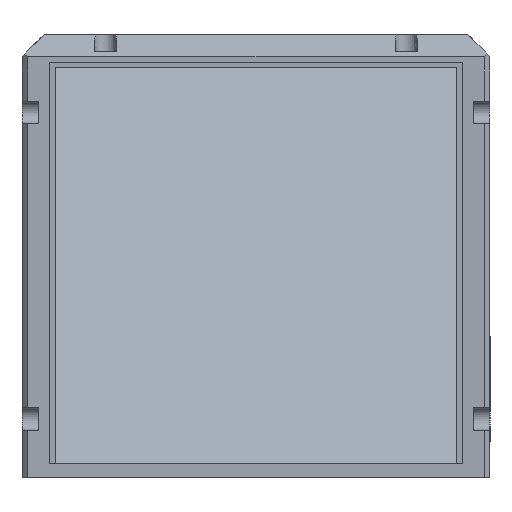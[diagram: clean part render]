
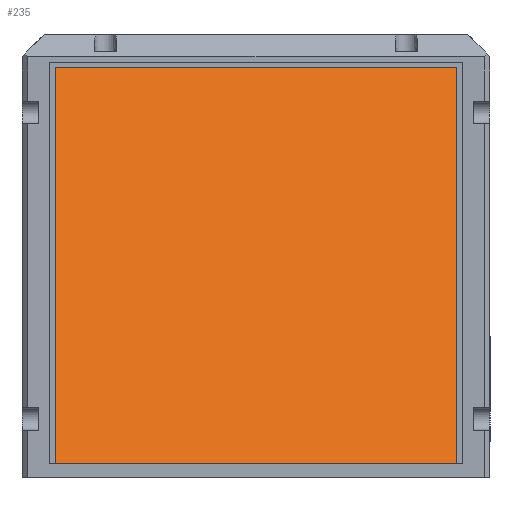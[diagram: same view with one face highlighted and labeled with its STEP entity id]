
A CAD part, front view. The second image highlights one B-rep face of the part: STEP entity #235.
In plain terms, the highlighted planar face has unit normal (0, -0.707, 0.707).
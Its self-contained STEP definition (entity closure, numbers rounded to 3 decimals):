
#83=CARTESIAN_POINT('',(37.,17.434,0.));
#84=VERTEX_POINT('',#83);
#91=CARTESIAN_POINT('',(37.,-53.701,-71.135));
#92=VERTEX_POINT('',#91);
#93=CARTESIAN_POINT('',(37.,17.434,0.));
#94=DIRECTION('',(0.,-0.707,-0.707));
#95=VECTOR('',#94,100.6);
#96=LINE('',#93,#95);
#97=EDGE_CURVE('',#84,#92,#96,.T.);
#137=CARTESIAN_POINT('',(-37.,17.434,0.));
#138=VERTEX_POINT('',#137);
#145=CARTESIAN_POINT('',(-37.,17.434,0.));
#146=DIRECTION('',(1.0,0.0,0.0));
#147=VECTOR('',#146,74.0);
#148=LINE('',#145,#147);
#149=EDGE_CURVE('',#138,#84,#148,.T.);
#168=CARTESIAN_POINT('',(-37.,-53.701,-71.135));
#169=VERTEX_POINT('',#168);
#176=CARTESIAN_POINT('',(-37.,-53.701,-71.135));
#177=DIRECTION('',(0.,0.707,0.707));
#178=VECTOR('',#177,100.6);
#179=LINE('',#176,#178);
#180=EDGE_CURVE('',#169,#138,#179,.T.);
#214=CARTESIAN_POINT('',(37.,-53.701,-71.135));
#215=DIRECTION('',(-1.0,0.0,0.0));
#216=VECTOR('',#215,74.0);
#217=LINE('',#214,#216);
#218=EDGE_CURVE('',#92,#169,#217,.T.);
#224=CARTESIAN_POINT('',(0.,-18.133,-35.567));
#225=DIRECTION('',(0.,0.707,-0.707));
#226=DIRECTION('',(-1.0,0.0,0.0));
#227=AXIS2_PLACEMENT_3D('',#224,#225,#226);
#228=PLANE('',#227);
#229=ORIENTED_EDGE('',*,*,#218,.F.);
#230=ORIENTED_EDGE('',*,*,#97,.F.);
#231=ORIENTED_EDGE('',*,*,#149,.F.);
#232=ORIENTED_EDGE('',*,*,#180,.F.);
#233=EDGE_LOOP('',(#229,#230,#231,#232));
#234=FACE_OUTER_BOUND('',#233,.T.);
#235=ADVANCED_FACE('',(#234),#228,.F.);
